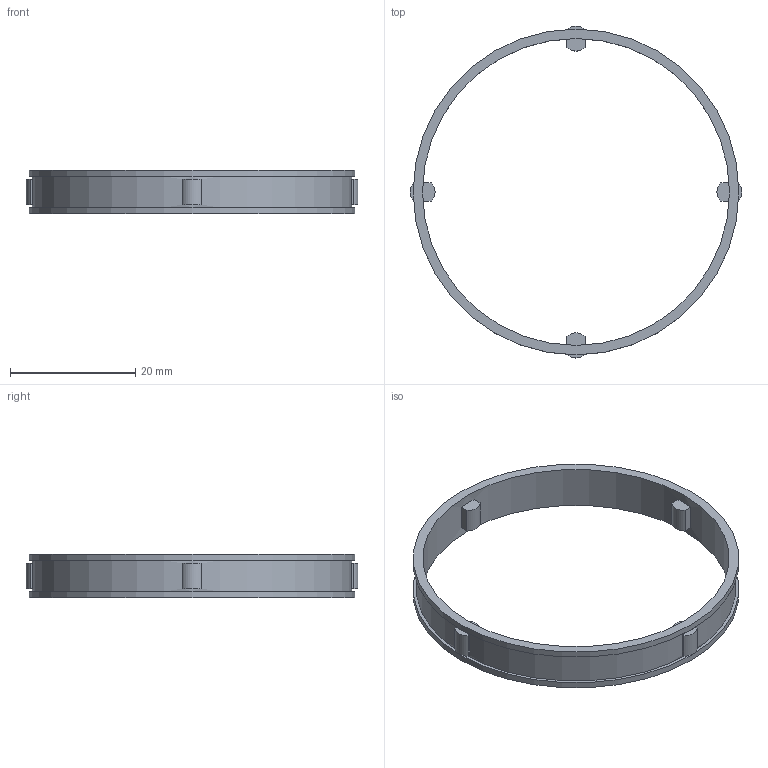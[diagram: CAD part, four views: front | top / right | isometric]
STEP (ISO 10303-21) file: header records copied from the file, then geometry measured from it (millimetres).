
FILE_DESCRIPTION(/* description */ (''),/* implementation_level */ '2;1');
FILE_NAME(/* name */ '300484 FE 453 Z2.stp',/* time_stamp */ '2016-11-03T14:05:50+01:00',/* author */ (''),/* organization */ (''),/* preprocessor_version */ 'ST-DEVELOPER v15',/* originating_system */ 'SIEMENS PLM Software NX 8.5',/* authorisation */ '');
FILE_SCHEMA (('CONFIG_CONTROL_DESIGN'));
Length unit declared in the file: millimetre
Products named in the file (1): ATE0000079_01
Bounding box: 53 x 53 x 7 mm (x, y, z)
Volume: 1383.8 mm3; surface area: 2970.6 mm2
Topology: 1 solids, 1 shells, 48 faces, 114 edges, 76 vertices
Faces by surface type: plane 36, cylinder 12
Full cylindrical faces by diameter (mm): 49 x1, 51 x1, 52 x2
Entity records: 1420 total; most frequent: DIRECTION 242, CARTESIAN_POINT 225, ORIENTED_EDGE 208, EDGE_CURVE 104, AXIS2_PLACEMENT_3D 89, VERTEX_POINT 72, LINE 64, VECTOR 64
